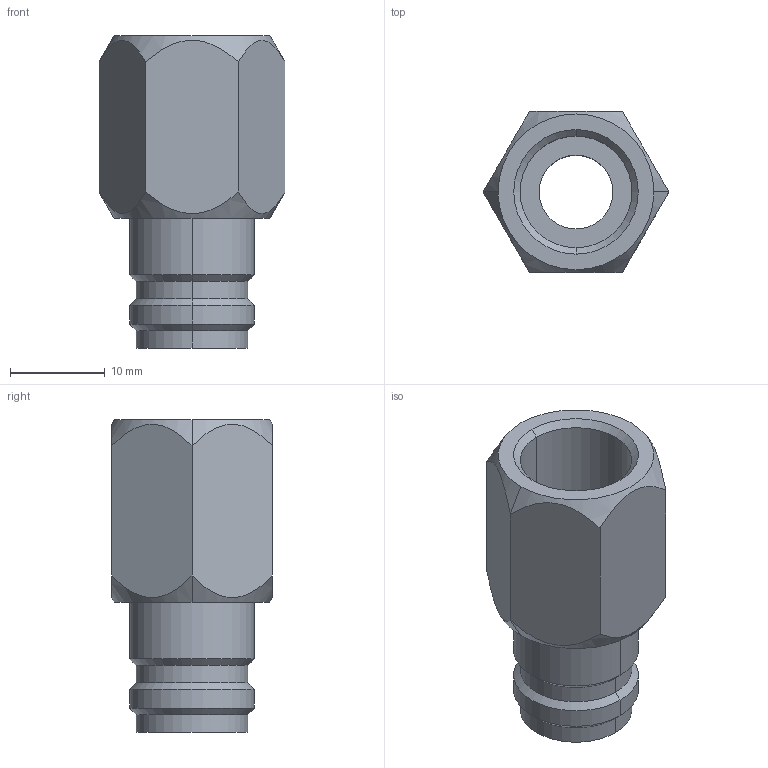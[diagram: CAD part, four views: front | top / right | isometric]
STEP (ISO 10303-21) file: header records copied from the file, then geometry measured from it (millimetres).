
FILE_DESCRIPTION((''),'2;1');
FILE_NAME('1823373081','2024-09-27T19:11:35',('Cecilia.Zabala'),('EMERSON ELECTRIC CO.'),'CREO PARAMETRIC BY PTC INC, 2022124','CREO PARAMETRIC BY PTC INC, 2022124','');
FILE_SCHEMA(('AUTOMOTIVE_DESIGN { 1 0 10303 214 1 1 1 1 }'));
Length unit declared in the file: millimetre
Products named in the file (1): 1823373081
Bounding box: 19.63 x 17 x 33 mm (x, y, z)
Volume: 4175.5 mm3; surface area: 2966.2 mm2
Topology: 1 solids, 1 shells, 34 faces, 75 edges, 48 vertices
Faces by surface type: cone 12, cylinder 12, plane 10
Entity records: 1560 total; most frequent: CARTESIAN_POINT 433, DIRECTION 169, ORIENTED_EDGE 144, PRESENTATION_STYLE_ASSIGNMENT 80, STYLED_ITEM 80, CURVE_STYLE 79, EDGE_CURVE 72, AXIS2_PLACEMENT_3D 68
